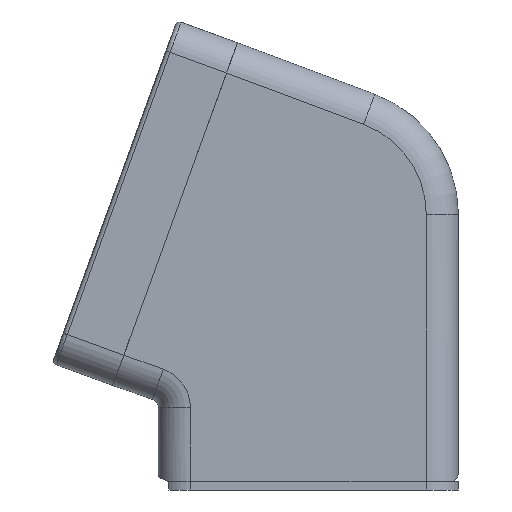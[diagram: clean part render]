
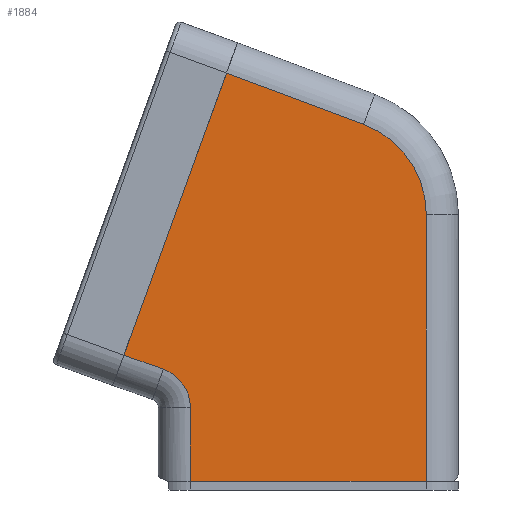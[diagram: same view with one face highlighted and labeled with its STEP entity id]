
A CAD part, left-side view. The second image highlights one B-rep face of the part: STEP entity #1884.
In plain terms, the highlighted planar face has unit normal (-1, 0, 0).
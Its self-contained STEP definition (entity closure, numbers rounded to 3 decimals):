
#618 = CIRCLE ( 'NONE', #1228, 22.5 ) ;
#1228 = AXIS2_PLACEMENT_3D ( 'NONE', #20984, #8728, #23072 ) ;
#1620 = ORIENTED_EDGE ( 'NONE', *, *, #10283, .T. ) ;
#1663 = AXIS2_PLACEMENT_3D ( 'NONE', #20544, #8271, #22612 ) ;
#1819 = VECTOR ( 'NONE', #23549, 1000. ) ;
#1884 = ADVANCED_FACE ( 'NONE', ( #6066 ), #14828, .T. ) ;
#2013 = CARTESIAN_POINT ( 'NONE',  ( -70., -12.88, 83.263 ) ) ;
#2453 = LINE ( 'NONE', #14559, #23501 ) ;
#3083 = DIRECTION ( 'NONE',  ( 0., -0.342, 0.94 ) ) ;
#3373 = CARTESIAN_POINT ( 'NONE',  ( -70., 27.5, 0. ) ) ;
#3493 = VERTEX_POINT ( 'NONE', #3373 ) ;
#3652 = VERTEX_POINT ( 'NONE', #13898 ) ;
#3915 = VERTEX_POINT ( 'NONE', #25202 ) ;
#4092 = ORIENTED_EDGE ( 'NONE', *, *, #10317, .T. ) ;
#4490 = EDGE_CURVE ( 'NONE', #14846, #3493, #5933, .T. ) ;
#4748 = AXIS2_PLACEMENT_3D ( 'NONE', #9247, #8965, #8900 ) ;
#5058 = CARTESIAN_POINT ( 'NONE',  ( -70., 19.146, 95.237 ) ) ;
#5556 = VERTEX_POINT ( 'NONE', #25193 ) ;
#5902 = LINE ( 'NONE', #20906, #21546 ) ;
#5933 = LINE ( 'NONE', #9359, #10664 ) ;
#6066 = FACE_OUTER_BOUND ( 'NONE', #25235, .T. ) ;
#7119 = EDGE_CURVE ( 'NONE', #3915, #14659, #15269, .T. ) ;
#8271 = DIRECTION ( 'NONE',  ( 1., 0., 0. ) ) ;
#8626 = DIRECTION ( 'NONE',  ( 0., 0., 1. ) ) ;
#8728 = DIRECTION ( 'NONE',  ( -1., 0., 0. ) ) ;
#8900 = DIRECTION ( 'NONE',  ( 0., 0., 1. ) ) ;
#8965 = DIRECTION ( 'NONE',  ( -1., 0., 0. ) ) ;
#9024 = LINE ( 'NONE', #5058, #19919 ) ;
#9099 = CARTESIAN_POINT ( 'NONE',  ( -70., 33.829, 26.179 ) ) ;
#9247 = CARTESIAN_POINT ( 'NONE',  ( -70., 34., 1.61 ) ) ;
#9359 = CARTESIAN_POINT ( 'NONE',  ( -70., 15.5, 0. ) ) ;
#9926 = CARTESIAN_POINT ( 'NONE',  ( -70., 27.5, 17.224 ) ) ;
#10200 = EDGE_CURVE ( 'NONE', #5556, #22099, #17669, .T. ) ;
#10283 = EDGE_CURVE ( 'NONE', #22099, #3493, #2453, .T. ) ;
#10317 = EDGE_CURVE ( 'NONE', #14846, #3652, #5902, .T. ) ;
#10361 = EDGE_CURVE ( 'NONE', #3652, #17198, #618, .T. ) ;
#10446 = EDGE_CURVE ( 'NONE', #17198, #14659, #9024, .T. ) ;
#10487 = EDGE_CURVE ( 'NONE', #3915, #5556, #22823, .T. ) ;
#10632 = CARTESIAN_POINT ( 'NONE',  ( -70., 19.085, 95.214 ) ) ;
#10664 = VECTOR ( 'NONE', #21638, 1000. ) ;
#11034 = ORIENTED_EDGE ( 'NONE', *, *, #10200, .T. ) ;
#12902 = ORIENTED_EDGE ( 'NONE', *, *, #10487, .T. ) ;
#13539 = ORIENTED_EDGE ( 'NONE', *, *, #4490, .F. ) ;
#13898 = CARTESIAN_POINT ( 'NONE',  ( -70., -27.5, 62.188 ) ) ;
#14559 = CARTESIAN_POINT ( 'NONE',  ( -70., 27.5, 1.61 ) ) ;
#14659 = VERTEX_POINT ( 'NONE', #10632 ) ;
#14828 = PLANE ( 'NONE',  #4748 ) ;
#14846 = VERTEX_POINT ( 'NONE', #17400 ) ;
#15134 = CARTESIAN_POINT ( 'NONE',  ( -70., 17.546, 99.443 ) ) ;
#15269 = LINE ( 'NONE', #15134, #26236 ) ;
#17198 = VERTEX_POINT ( 'NONE', #2013 ) ;
#17400 = CARTESIAN_POINT ( 'NONE',  ( -70., -27.5, 0. ) ) ;
#17669 = CIRCLE ( 'NONE', #1663, 9.5 ) ;
#18638 = DIRECTION ( 'NONE',  ( 0., 0., -1. ) ) ;
#19307 = DIRECTION ( 'NONE',  ( 0., 0.937, 0.35 ) ) ;
#19373 = ORIENTED_EDGE ( 'NONE', *, *, #10446, .T. ) ;
#19919 = VECTOR ( 'NONE', #19307, 1000. ) ;
#20544 = CARTESIAN_POINT ( 'NONE',  ( -70., 37., 17.224 ) ) ;
#20906 = CARTESIAN_POINT ( 'NONE',  ( -70., -27.5, 62.188 ) ) ;
#20984 = CARTESIAN_POINT ( 'NONE',  ( -70., -5., 62.188 ) ) ;
#21308 = ORIENTED_EDGE ( 'NONE', *, *, #7119, .F. ) ;
#21546 = VECTOR ( 'NONE', #8626, 1000. ) ;
#21638 = DIRECTION ( 'NONE',  ( 0., 1., 0. ) ) ;
#22099 = VERTEX_POINT ( 'NONE', #9926 ) ;
#22294 = ORIENTED_EDGE ( 'NONE', *, *, #10361, .T. ) ;
#22612 = DIRECTION ( 'NONE',  ( 0., 0., 1. ) ) ;
#22823 = LINE ( 'NONE', #9099, #1819 ) ;
#23072 = DIRECTION ( 'NONE',  ( 0., 0., 1. ) ) ;
#23501 = VECTOR ( 'NONE', #18638, 1000. ) ;
#23549 = DIRECTION ( 'NONE',  ( 0., -0.943, -0.334 ) ) ;
#25193 = CARTESIAN_POINT ( 'NONE',  ( -70., 33.829, 26.179 ) ) ;
#25202 = CARTESIAN_POINT ( 'NONE',  ( -70., 43.026, 29.436 ) ) ;
#25235 = EDGE_LOOP ( 'NONE', ( #11034, #1620, #13539, #4092, #22294, #19373, #21308, #12902 ) ) ;
#26236 = VECTOR ( 'NONE', #3083, 1000. ) ;
